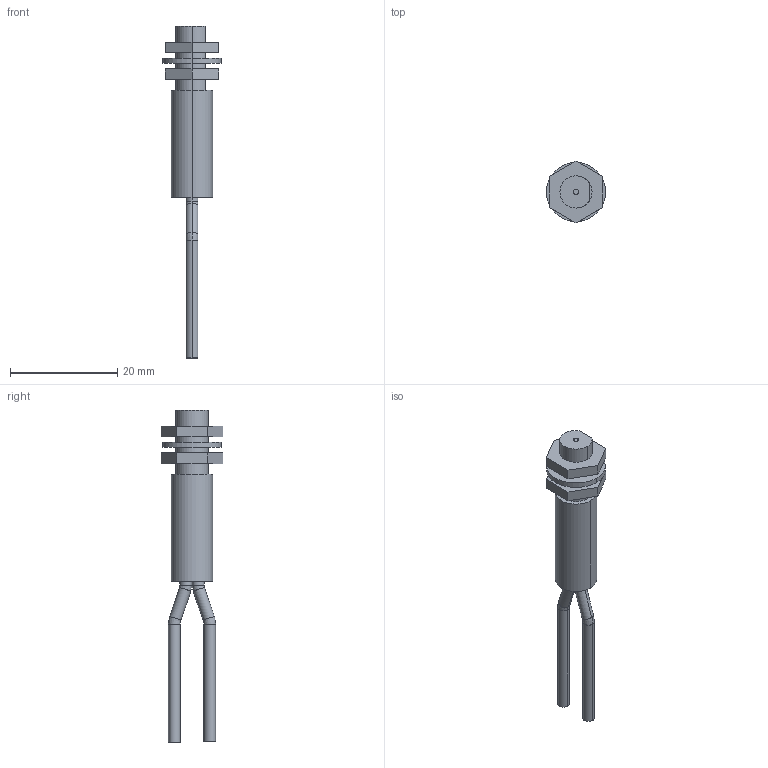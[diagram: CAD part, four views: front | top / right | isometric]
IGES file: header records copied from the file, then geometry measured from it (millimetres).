
Start section: SolidWorks IGES FILE using analytic representation for surfaces
Global section: file name: C:\Documents and Settings\yk0651\デスクトップ\3D_catalog_050904\0_IGES\FD-P80.IGS; native system: SolidWorks 2004 by SolidWorks Corporation; preprocessor: Version 5.3; author: yk0651; date: 050904.191509; units: millimetre
Bounding box: 11 x 11.55 x 62 mm (x, y, z)
Volume: 1787.8 mm3; surface area: 1854.6 mm2
Topology: 4 solids, 4 shells, 60 faces, 128 edges, 80 vertices
Faces by surface type: revolution 35, plane 25
